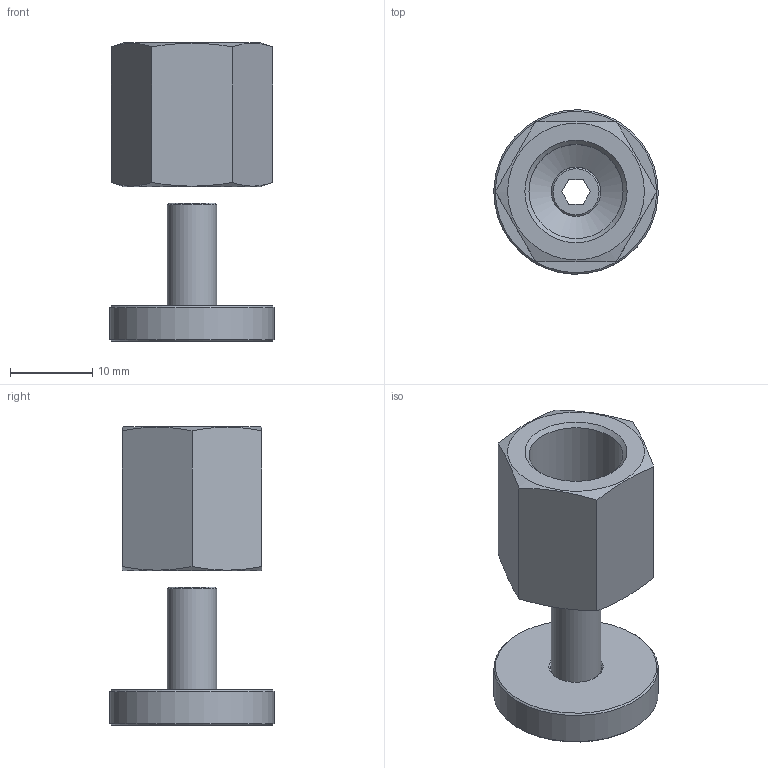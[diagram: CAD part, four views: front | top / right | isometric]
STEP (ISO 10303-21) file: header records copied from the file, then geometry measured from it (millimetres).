
FILE_DESCRIPTION((''),'2;1');
FILE_NAME('W:\Technik\Konstruktion\CAD-Daten\Vakuumsauger\270_\270.492\270.492.stp','2010-07-22T10:30:03',('moswald'),(''),'Autodesk Inventor 2009','Autodesk Inventor 2009','');
FILE_SCHEMA(('AUTOMOTIVE_DESIGN { 1 0 10303 214 1 1 1 1 }'));
Length unit declared in the file: millimetre
Products named in the file (4): 270.492; 270.461; VPW50; 270.308
Assembly tree (3 placements, depth 2):
  270.492
    270.461
    VPW50
    270.308
Bounding box: 19.99 x 19.99 x 36.3 mm (x, y, z)
Volume: 4385.7 mm3; surface area: 3555.7 mm2
Topology: 3 solids, 3 shells, 43 faces, 88 edges, 54 vertices
Faces by surface type: plane 21, cone 13, cylinder 7, bspline 2
Full cylindrical faces by diameter (mm): 4.1 x1, 6 x2, 6.2 x1, 10 x1, 12 x1, 20 x1
Entity records: 1138 total; most frequent: CARTESIAN_POINT 226, DIRECTION 178, ORIENTED_EDGE 130, AXIS2_PLACEMENT_3D 77, EDGE_LOOP 74, EDGE_CURVE 65, VERTEX_POINT 53, FACE_OUTER_BOUND 43
